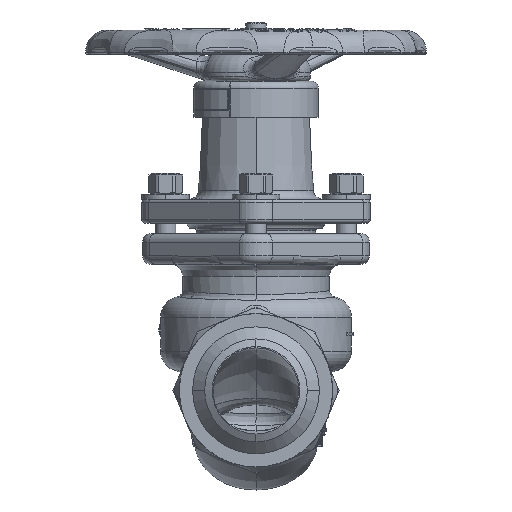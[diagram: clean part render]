
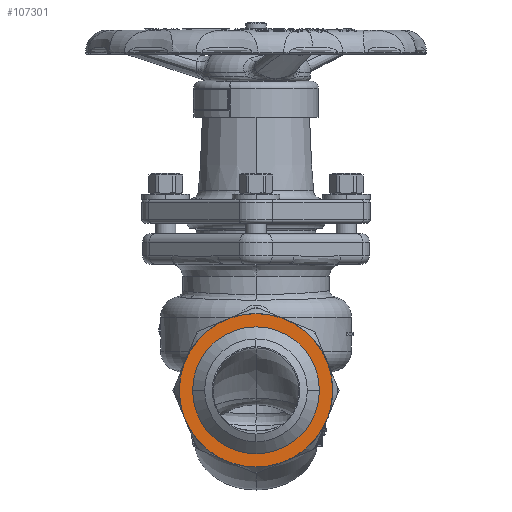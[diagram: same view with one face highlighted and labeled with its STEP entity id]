
A CAD part, left-side view. The second image highlights one B-rep face of the part: STEP entity #107301.
In plain terms, the highlighted planar face has unit normal (-1, 0, 0).
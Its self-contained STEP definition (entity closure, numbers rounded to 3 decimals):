
#21234=CARTESIAN_POINT('',(-110.,0.,0.));
#21235=DIRECTION('',(-1.,0.,0.));
#21236=DIRECTION('',(0.,1.,0.));
#21237=AXIS2_PLACEMENT_3D('',#21234,#21235,#21236);
#21239=CARTESIAN_POINT('',(-110.,0.,0.));
#21240=DIRECTION('',(-1.,0.,0.));
#21241=DIRECTION('',(0.,-1.,0.));
#21242=AXIS2_PLACEMENT_3D('',#21239,#21240,#21241);
#21244=CARTESIAN_POINT('',(-110.,0.,0.));
#21245=DIRECTION('',(-1.,0.,0.));
#21246=DIRECTION('',(0.,0.,1.));
#21247=AXIS2_PLACEMENT_3D('',#21244,#21245,#21246);
#21274=CARTESIAN_POINT('',(-110.,0.,0.));
#21275=DIRECTION('',(-1.,0.,0.));
#21276=DIRECTION('',(0.,0.,-1.));
#21277=AXIS2_PLACEMENT_3D('',#21274,#21275,#21276);
#42474=CARTESIAN_POINT('',(-110.,0.,45.));
#42475=CARTESIAN_POINT('',(-110.,0.,-45.));
#42476=VERTEX_POINT('',#42474);
#42477=VERTEX_POINT('',#42475);
#42796=CARTESIAN_POINT('',(-110.,37.221,0.));
#42797=CARTESIAN_POINT('',(-110.,-37.221,0.));
#42798=VERTEX_POINT('',#42796);
#42799=VERTEX_POINT('',#42797);
#107285=CARTESIAN_POINT('',(-110.,0.,0.));
#107286=DIRECTION('',(-1.,0.,0.));
#107287=DIRECTION('',(0.,0.,1.));
#107288=AXIS2_PLACEMENT_3D('',#107285,#107286,#107287);
#107289=PLANE('',#107288);
#107291=ORIENTED_EDGE('',*,*,#107290,.F.);
#107293=ORIENTED_EDGE('',*,*,#107292,.F.);
#107294=EDGE_LOOP('',(#107291,#107293));
#107295=FACE_OUTER_BOUND('',#107294,.F.);
#107296=ORIENTED_EDGE('',*,*,#107273,.T.);
#107298=ORIENTED_EDGE('',*,*,#107297,.T.);
#107299=EDGE_LOOP('',(#107296,#107298));
#107300=FACE_BOUND('',#107299,.F.);
#107301=ADVANCED_FACE('',(#107295,#107300),#107289,.T.);
#21238=CIRCLE('',#21237,37.221);
#21243=CIRCLE('',#21242,37.221);
#21248=CIRCLE('',#21247,45.);
#21278=CIRCLE('',#21277,45.);
#107273=EDGE_CURVE('',#42798,#42799,#21238,.T.);
#107290=EDGE_CURVE('',#42476,#42477,#21248,.T.);
#107292=EDGE_CURVE('',#42477,#42476,#21278,.T.);
#107297=EDGE_CURVE('',#42799,#42798,#21243,.T.);
